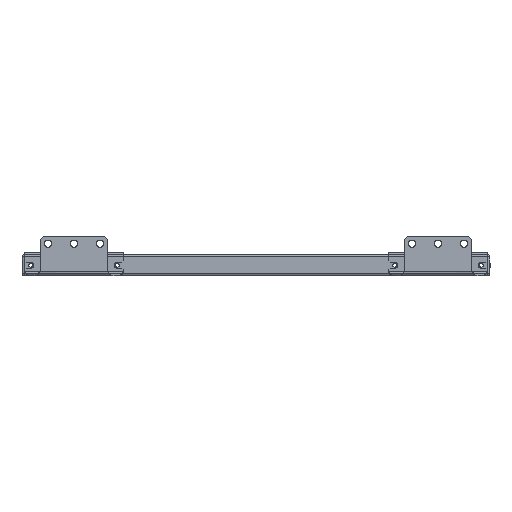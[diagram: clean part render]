
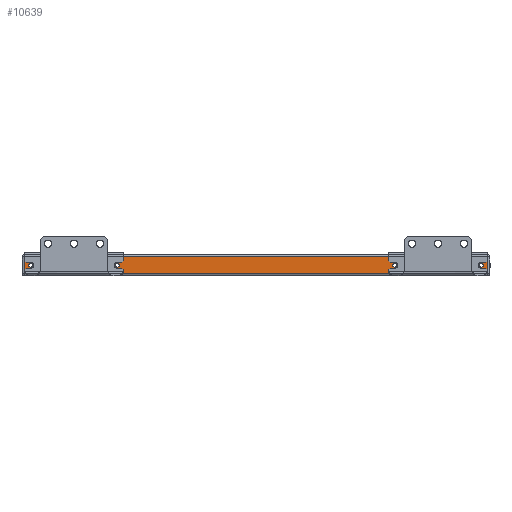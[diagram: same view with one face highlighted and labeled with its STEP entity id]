
A CAD part, left-side view. The second image highlights one B-rep face of the part: STEP entity #10639.
In plain terms, the highlighted planar face has unit normal (-1, 0, 0).
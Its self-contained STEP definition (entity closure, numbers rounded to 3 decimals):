
#301 = VECTOR ( 'NONE', #4084, 1000. ) ;
#303 = VECTOR ( 'NONE', #4081, 1000. ) ;
#304 = VECTOR ( 'NONE', #4078, 1000. ) ;
#305 = VECTOR ( 'NONE', #4075, 1000. ) ;
#306 = AXIS2_PLACEMENT_3D ( 'NONE', #4072, #4085, #4086 ) ;
#317 = AXIS2_PLACEMENT_3D ( 'NONE', #4066, #4067, #4068 ) ;
#332 = AXIS2_PLACEMENT_3D ( 'NONE', #4060, #4064, #4065 ) ;
#334 = AXIS2_PLACEMENT_3D ( 'NONE', #4069, #4070, #4071 ) ;
#720 = AXIS2_PLACEMENT_3D ( 'NONE', #8039, #8040, #8041 ) ;
#722 = AXIS2_PLACEMENT_3D ( 'NONE', #8063, #8064, #8065 ) ;
#743 = AXIS2_PLACEMENT_3D ( 'NONE', #8015, #8016, #8017 ) ;
#756 = AXIS2_PLACEMENT_3D ( 'NONE', #7991, #7992, #7993 ) ;
#1706 = VERTEX_POINT ( 'NONE', #9578 ) ;
#1707 = VERTEX_POINT ( 'NONE', #9579 ) ;
#1714 = VERTEX_POINT ( 'NONE', #9586 ) ;
#1715 = VERTEX_POINT ( 'NONE', #9587 ) ;
#1722 = VERTEX_POINT ( 'NONE', #9594 ) ;
#1723 = VERTEX_POINT ( 'NONE', #9595 ) ;
#1730 = VERTEX_POINT ( 'NONE', #9602 ) ;
#1731 = VERTEX_POINT ( 'NONE', #9603 ) ;
#1912 = VERTEX_POINT ( 'NONE', #9784 ) ;
#1913 = VERTEX_POINT ( 'NONE', #9785 ) ;
#1914 = VERTEX_POINT ( 'NONE', #9786 ) ;
#1915 = VERTEX_POINT ( 'NONE', #9787 ) ;
#2017 = EDGE_LOOP ( 'NONE', ( #2180, #2184 ) ) ;
#2040 = EDGE_LOOP ( 'NONE', ( #2173, #2166 ) ) ;
#2041 = EDGE_LOOP ( 'NONE', ( #2181, #2163 ) ) ;
#2162 = ORIENTED_EDGE ( 'NONE', *, *, #3123, .T. ) ;
#2163 = ORIENTED_EDGE ( 'NONE', *, *, #3139, .F. ) ;
#2166 = ORIENTED_EDGE ( 'NONE', *, *, #3147, .F. ) ;
#2170 = ORIENTED_EDGE ( 'NONE', *, *, #10500, .T. ) ;
#2171 = ORIENTED_EDGE ( 'NONE', *, *, #10501, .T. ) ;
#2173 = ORIENTED_EDGE ( 'NONE', *, *, #10496, .F. ) ;
#2176 = ORIENTED_EDGE ( 'NONE', *, *, #10498, .T. ) ;
#2177 = ORIENTED_EDGE ( 'NONE', *, *, #10497, .T. ) ;
#2180 = ORIENTED_EDGE ( 'NONE', *, *, #3131, .T. ) ;
#2181 = ORIENTED_EDGE ( 'NONE', *, *, #10495, .F. ) ;
#2184 = ORIENTED_EDGE ( 'NONE', *, *, #10494, .T. ) ;
#2186 = ORIENTED_EDGE ( 'NONE', *, *, #10499, .T. ) ;
#2685 = CIRCLE ( 'NONE', #306, 2. ) ;
#2686 = CIRCLE ( 'NONE', #334, 2. ) ;
#2687 = CIRCLE ( 'NONE', #317, 2. ) ;
#2688 = CIRCLE ( 'NONE', #332, 2. ) ;
#2799 = CIRCLE ( 'NONE', #722, 2. ) ;
#2803 = CIRCLE ( 'NONE', #720, 2. ) ;
#2807 = CIRCLE ( 'NONE', #743, 2. ) ;
#2811 = CIRCLE ( 'NONE', #756, 2. ) ;
#3123 = EDGE_CURVE ( 'NONE', #1707, #1706, #2811, .T. ) ;
#3131 = EDGE_CURVE ( 'NONE', #1715, #1714, #2807, .T. ) ;
#3139 = EDGE_CURVE ( 'NONE', #1722, #1723, #2803, .T. ) ;
#3147 = EDGE_CURVE ( 'NONE', #1730, #1731, #2799, .T. ) ;
#4060 = CARTESIAN_POINT ( 'NONE',  ( -425., -216.5, 10. ) ) ;
#4064 = DIRECTION ( 'NONE',  ( 1., 0., 0. ) ) ;
#4065 = DIRECTION ( 'NONE',  ( 0., 0., 1. ) ) ;
#4066 = CARTESIAN_POINT ( 'NONE',  ( -425., 133.5, 10. ) ) ;
#4067 = DIRECTION ( 'NONE',  ( -1., 0., 0. ) ) ;
#4068 = DIRECTION ( 'NONE',  ( 0., 0., 1. ) ) ;
#4069 = CARTESIAN_POINT ( 'NONE',  ( -425., 216.5, 10. ) ) ;
#4070 = DIRECTION ( 'NONE',  ( -1., 0., 0. ) ) ;
#4071 = DIRECTION ( 'NONE',  ( 0., 0., 1. ) ) ;
#4072 = CARTESIAN_POINT ( 'NONE',  ( -425., -133.5, 10. ) ) ;
#4073 = LINE ( 'NONE', #4074, #305 ) ;
#4074 = CARTESIAN_POINT ( 'NONE',  ( -425., 225., 18. ) ) ;
#4075 = DIRECTION ( 'NONE',  ( 0., 1., 0. ) ) ;
#4076 = LINE ( 'NONE', #4077, #304 ) ;
#4077 = CARTESIAN_POINT ( 'NONE',  ( -425., -223., 20. ) ) ;
#4078 = DIRECTION ( 'NONE',  ( 0., 0., 1. ) ) ;
#4079 = LINE ( 'NONE', #4080, #303 ) ;
#4080 = CARTESIAN_POINT ( 'NONE',  ( -425., 223., 20. ) ) ;
#4081 = DIRECTION ( 'NONE',  ( 0., 0., -1. ) ) ;
#4082 = LINE ( 'NONE', #4083, #301 ) ;
#4083 = CARTESIAN_POINT ( 'NONE',  ( -425., -225., 2. ) ) ;
#4084 = DIRECTION ( 'NONE',  ( 0., -1., 0. ) ) ;
#4085 = DIRECTION ( 'NONE',  ( 1., 0., 0. ) ) ;
#4086 = DIRECTION ( 'NONE',  ( 0., 0., 1. ) ) ;
#4595 = EDGE_LOOP ( 'NONE', ( #2176, #2177, #2186, #2170 ) ) ;
#4596 = EDGE_LOOP ( 'NONE', ( #2162, #2171 ) ) ;
#5305 = PLANE ( 'NONE',  #9009 ) ;
#5306 = CARTESIAN_POINT ( 'NONE',  ( -425., -225., 20. ) ) ;
#5307 = DIRECTION ( 'NONE',  ( 1., 0., 0. ) ) ;
#5308 = DIRECTION ( 'NONE',  ( 0., 0., -1. ) ) ;
#7991 = CARTESIAN_POINT ( 'NONE',  ( -425., -133.5, 10. ) ) ;
#7992 = DIRECTION ( 'NONE',  ( 1., 0., 0. ) ) ;
#7993 = DIRECTION ( 'NONE',  ( 0., 0., 1. ) ) ;
#8015 = CARTESIAN_POINT ( 'NONE',  ( -425., -216.5, 10. ) ) ;
#8016 = DIRECTION ( 'NONE',  ( 1., 0., 0. ) ) ;
#8017 = DIRECTION ( 'NONE',  ( 0., 0., 1. ) ) ;
#8039 = CARTESIAN_POINT ( 'NONE',  ( -425., 133.5, 10. ) ) ;
#8040 = DIRECTION ( 'NONE',  ( -1., 0., 0. ) ) ;
#8041 = DIRECTION ( 'NONE',  ( 0., 0., 1. ) ) ;
#8063 = CARTESIAN_POINT ( 'NONE',  ( -425., 216.5, 10. ) ) ;
#8064 = DIRECTION ( 'NONE',  ( -1., 0., 0. ) ) ;
#8065 = DIRECTION ( 'NONE',  ( 0., 0., 1. ) ) ;
#9009 = AXIS2_PLACEMENT_3D ( 'NONE', #5306, #5307, #5308 ) ;
#9014 = FACE_BOUND ( 'NONE', #2041, .T. ) ;
#9086 = FACE_BOUND ( 'NONE', #4596, .T. ) ;
#9087 = FACE_OUTER_BOUND ( 'NONE', #4595, .T. ) ;
#9109 = FACE_BOUND ( 'NONE', #2040, .T. ) ;
#9112 = FACE_BOUND ( 'NONE', #2017, .T. ) ;
#9578 = CARTESIAN_POINT ( 'NONE',  ( -425., -133.5, 8. ) ) ;
#9579 = CARTESIAN_POINT ( 'NONE',  ( -425., -133.5, 12. ) ) ;
#9586 = CARTESIAN_POINT ( 'NONE',  ( -425., -216.5, 8. ) ) ;
#9587 = CARTESIAN_POINT ( 'NONE',  ( -425., -216.5, 12. ) ) ;
#9594 = CARTESIAN_POINT ( 'NONE',  ( -425., 133.5, 8. ) ) ;
#9595 = CARTESIAN_POINT ( 'NONE',  ( -425., 133.5, 12. ) ) ;
#9602 = CARTESIAN_POINT ( 'NONE',  ( -425., 216.5, 8. ) ) ;
#9603 = CARTESIAN_POINT ( 'NONE',  ( -425., 216.5, 12. ) ) ;
#9784 = CARTESIAN_POINT ( 'NONE',  ( -425., -223., 2. ) ) ;
#9785 = CARTESIAN_POINT ( 'NONE',  ( -425., -223., 18. ) ) ;
#9786 = CARTESIAN_POINT ( 'NONE',  ( -425., 223., 18. ) ) ;
#9787 = CARTESIAN_POINT ( 'NONE',  ( -425., 223., 2. ) ) ;
#10494 = EDGE_CURVE ( 'NONE', #1714, #1715, #2688, .T. ) ;
#10495 = EDGE_CURVE ( 'NONE', #1723, #1722, #2687, .T. ) ;
#10496 = EDGE_CURVE ( 'NONE', #1731, #1730, #2686, .T. ) ;
#10497 = EDGE_CURVE ( 'NONE', #1913, #1914, #4073, .T. ) ;
#10498 = EDGE_CURVE ( 'NONE', #1912, #1913, #4076, .T. ) ;
#10499 = EDGE_CURVE ( 'NONE', #1914, #1915, #4079, .T. ) ;
#10500 = EDGE_CURVE ( 'NONE', #1915, #1912, #4082, .T. ) ;
#10501 = EDGE_CURVE ( 'NONE', #1706, #1707, #2685, .T. ) ;
#10639 = ADVANCED_FACE ( 'NONE', ( #9112, #9014, #9109, #9087, #9086 ), #5305, .F. ) ;
